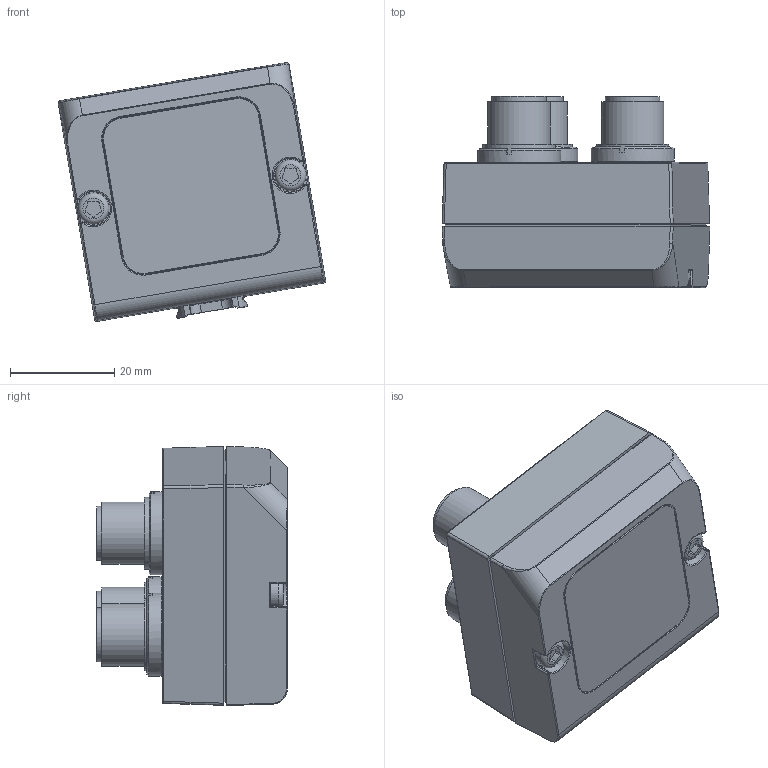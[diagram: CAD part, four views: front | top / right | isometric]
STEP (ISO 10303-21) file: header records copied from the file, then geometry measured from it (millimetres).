
FILE_DESCRIPTION(/* description */ (''),/* implementation_level */ '2;1');
FILE_NAME(/* name */ 'T:\Steimel, Richard\GH-ENG-0012950.stp',/* time_stamp */ '2016-03-18T11:50:07+01:00',/* author */ ('Bernhard.Burth'),/* organization */ (''),/* preprocessor_version */ 'ST-DEVELOPER v16.1',/* originating_system */ 'Autodesk Inventor 2016',/* authorisation */ '');
FILE_SCHEMA (('AUTOMOTIVE_DESIGN { 1 0 10303 214 3 1 1 }'));
Length unit declared in the file: millimetre
Products named in the file (11): GH-ENG-0012949; GH-ENG-0011323; GH-ENG-0013591; GH-ENG-0010318; GH-ENG-0014929; GH-ENG-0014928; GH-ENG-0014931; GH-ENG-0011387; GH-ENG-0011390; GH-ENG-0011386; GH-ENG-0012950
Assembly tree (16 placements, depth 3):
  GH-ENG-0012950
    GH-ENG-0012949
    GH-ENG-0011387  x2
    GH-ENG-0011390  x3
    GH-ENG-0011323  x3
    GH-ENG-0010318
      GH-ENG-0013591
    GH-ENG-0011386
    GH-ENG-0014929
    GH-ENG-0014928  x2
    GH-ENG-0014931
Bounding box: 51.43 x 36.7 x 49.79 mm (x, y, z)
Volume: 22332.6 mm3; surface area: 31418.8 mm2
Topology: 11 solids, 24 shells, 1417 faces, 3691 edges, 2422 vertices
Faces by surface type: plane 717, cylinder 339, cone 235, bspline 51, torus 44, sphere 31
Full cylindrical faces by diameter (mm): 0.6 x26, 0.8 x31, 1 x8, 1.2 x31, 2 x2, 2.4 x2, 3 x2, 3.3 x2, 4 x1, 4.5 x1, 6 x3, 7.7 x1, 8 x1, 8.4 x6, 9.4 x3, 9.85 x3, 10.4 x1, 10.5 x2, 12 x3, 12.4 x3, 13.9 x6, 14 x6, 16 x4
Entity records: 38612 total; most frequent: CARTESIAN_POINT 8536, DIRECTION 6284, ORIENTED_EDGE 5972, EDGE_CURVE 2986, AXIS2_PLACEMENT_3D 2215, VERTEX_POINT 2017, LINE 1854, VECTOR 1854
